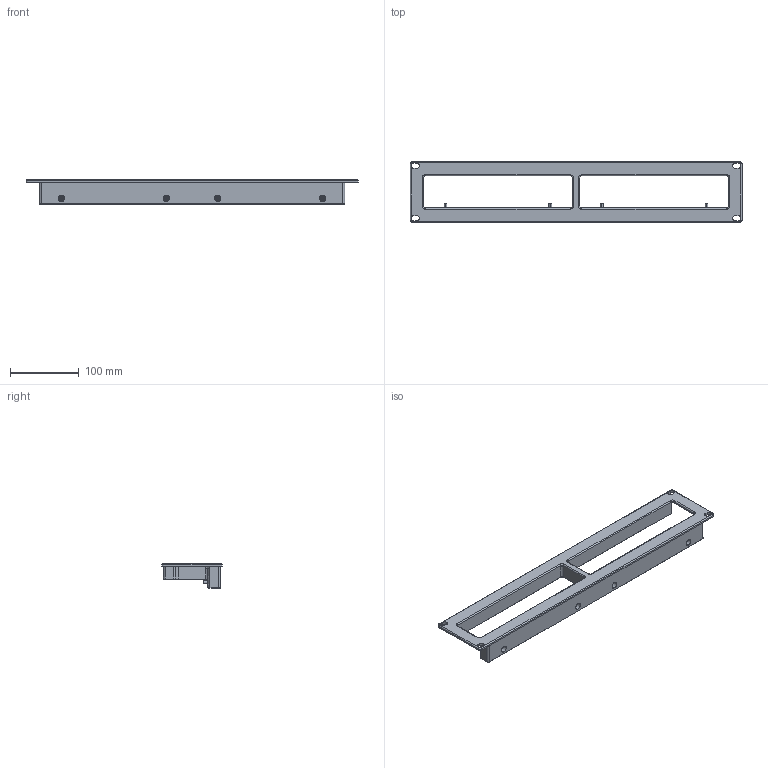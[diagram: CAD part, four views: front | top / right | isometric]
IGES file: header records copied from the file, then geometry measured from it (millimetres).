
Start section: SolidWorks IGES file using analytic representation for surfaces
Global section: file name: C:\Dropbox\Mechanical Engr\Development Projects (P)\Accessories\Customer Model Development\Accessoryk, 1400-RM.IGS; native system: SolidWorks 2014; preprocessor: SolidWorks 2014; author: mhanson; date: 150811.115401; units: inch
Bounding box: 482.6 x 88.14 x 35.56 mm (x, y, z)
Volume: 502589.2 mm3; surface area: 101981.1 mm2
Topology: 5 solids, 5 shells, 386 faces, 898 edges, 547 vertices
Faces by surface type: revolution 168, plane 165, bspline 53
